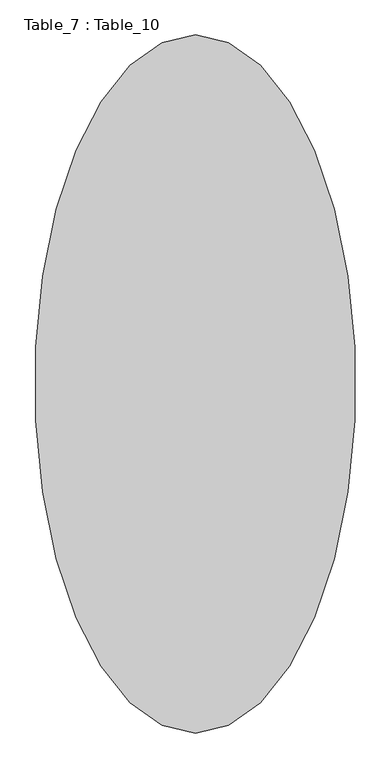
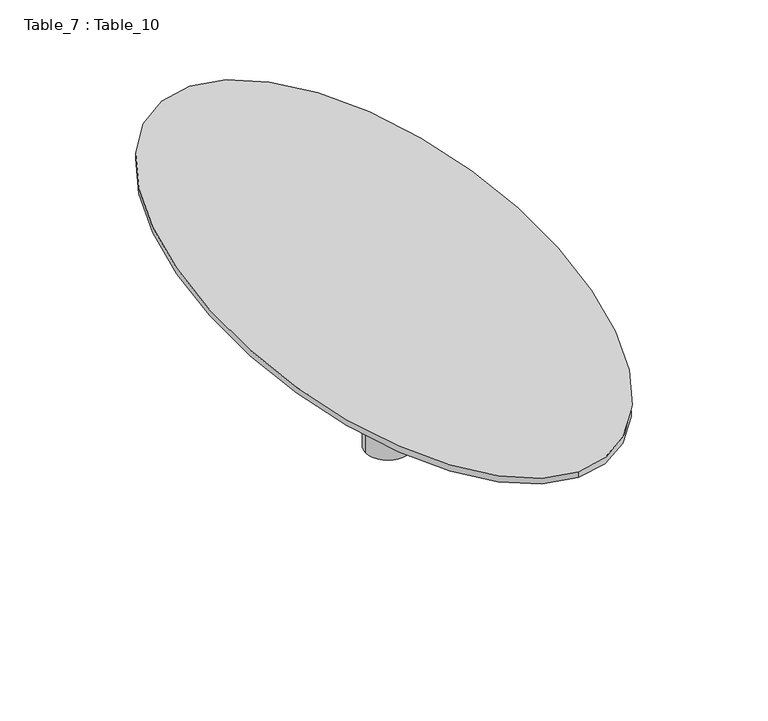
"""IFC4 building model written with IfcOpenShell, lengths in millimetres: furniture geometry, Table_7 : Table_10."""

import ifcopenshell
import ifcopenshell.guid

model = None  # the IFC model being written
_history = None  # IfcOwnerHistory: only IFC2X3 demands one
_inside = {}  # id of a spatial element -> (the spatial element, [elements in it])
_under = {}  # id of a project, library or spatial element -> (it, [spatial elements below it])
_declared = {}  # id of a project -> (the project, [libraries it declares])
_typed = {}  # id of a type object -> (the type object, [elements of that type])
_made_of = {}  # id of a material, layer set ... -> (it, [elements and type objects made of it])


def new_model(schema):
    """Start an empty IFC model of exactly this schema.

    Asked for "IFC4X3", IfcOpenShell would pick the latest addendum, in which some entities
    have other attributes; the version numbers below select the first issue.
    IFC2X3 requires an IfcOwnerHistory on every rooted entity: one is made here for all.
    """
    global model, _history
    if schema == "IFC4X3":
        model = ifcopenshell.file(schema_version=(4, 3, 0, 0))
    else:
        model = ifcopenshell.file(schema=schema)
    _inside.clear()
    _under.clear()
    _declared.clear()
    _typed.clear()
    _made_of.clear()
    _history = None
    if model.schema == "IFC2X3":
        org = make("IfcOrganization", Name="unknown")
        user = make(
            "IfcPersonAndOrganization",
            ThePerson=make("IfcPerson", FamilyName="unknown"),
            TheOrganization=org,
        )
        app = make(
            "IfcApplication",
            ApplicationDeveloper=org,
            Version="unknown",
            ApplicationFullName="unknown",
            ApplicationIdentifier="unknown",
        )
        _history = make(
            "IfcOwnerHistory",
            OwningUser=user,
            OwningApplication=app,
            ChangeAction="ADDED",
            CreationDate=0,
        )
    return model


def make(cls, **values):
    """One entity of the class cls with the attributes given. An attribute that is None is left unset."""
    return model.create_entity(
        cls, **{name: value for name, value in values.items() if value is not None}
    )


def rooted(cls, **values):
    """An entity with a GlobalId (a new one), such as an element, a storey or a relation."""
    return make(cls, GlobalId=ifcopenshell.guid.new(), OwnerHistory=_history, **values)


def si_unit(unit_type, name, prefix=None):
    """IfcSIUnit, for example si_unit("LENGTHUNIT", "METRE", prefix="MILLI")."""
    return make("IfcSIUnit", UnitType=unit_type, Prefix=prefix, Name=name)


def assignment(units):
    """IfcUnitAssignment: the units of a project."""
    return None if units is None else make("IfcUnitAssignment", Units=units)


def point(xyz):
    """IfcCartesianPoint."""
    return None if xyz is None else make("IfcCartesianPoint", Coordinates=xyz)


def direction(xyz):
    """IfcDirection."""
    return None if xyz is None else make("IfcDirection", DirectionRatios=xyz)


def frame(location, z_axis=None, x_axis=None):
    """IfcAxis2Placement3D, a coordinate frame: its origin and axes. An axis left out is left unset."""
    return make(
        "IfcAxis2Placement3D",
        Location=point(location),
        Axis=direction(z_axis),
        RefDirection=direction(x_axis),
    )


def frame_2d(location, x_axis=None):
    """IfcAxis2Placement2D, a coordinate frame in the plane: its origin and x axis."""
    return make(
        "IfcAxis2Placement2D", Location=point(location), RefDirection=direction(x_axis)
    )


def origin():
    """The frame at (0, 0, 0) with its axes left unset."""
    return frame((0.0, 0.0, 0.0))


def place(relative_to, where):
    """IfcLocalPlacement: puts the frame where relative to a parent placement (None: the world)."""
    return make(
        "IfcLocalPlacement", PlacementRelTo=relative_to, RelativePlacement=where
    )


def context(
    kind, dimensions, precision=None, world=None, true_north=None, identifier=None
):
    """IfcGeometricRepresentationContext, for example the 3D "Model" context."""
    return make(
        "IfcGeometricRepresentationContext",
        ContextIdentifier=identifier,
        ContextType=kind,
        CoordinateSpaceDimension=dimensions,
        Precision=precision,
        WorldCoordinateSystem=world,
        TrueNorth=true_north,
    )


def project(units=None, contexts=None):
    """IfcProject with its units and contexts."""
    return rooted(
        "IfcProject",
        Name="project",
        RepresentationContexts=contexts,
        UnitsInContext=assignment(units),
    )


def spatial(cls, under=None, at=None, **own):
    """A site, building, storey or space (cls), placed at a placement, below another one or the project."""
    s = rooted(cls, ObjectPlacement=at, **own)
    if under is not None:
        _under.setdefault(under.id(), (under, []))[1].append(s)
    return s


def circle_curve(where, radius):
    """IfcCircle in the frame where."""
    return make("IfcCircle", Position=where, Radius=radius)


def ellipse_curve(where, semi_axis1, semi_axis2):
    """IfcEllipse in the frame where."""
    return make(
        "IfcEllipse", Position=where, SemiAxis1=semi_axis1, SemiAxis2=semi_axis2
    )


def trimmed(basis, trim1, trim2, sense, master):
    """IfcTrimmedCurve: the piece of a basis curve between two trims."""
    return make(
        "IfcTrimmedCurve",
        BasisCurve=basis,
        Trim1=trim1,
        Trim2=trim2,
        SenseAgreement=sense,
        MasterRepresentation=master,
    )


def segment(curve, same_sense, transition):
    """IfcCompositeCurveSegment."""
    return make(
        "IfcCompositeCurveSegment",
        Transition=transition,
        SameSense=same_sense,
        ParentCurve=curve,
    )


def composite_curve(segments, self_intersect=None):
    """IfcCompositeCurve: segments joined end to end."""
    return make("IfcCompositeCurve", Segments=segments, SelfIntersect=self_intersect)


def outline(outer, holes=None, kind="AREA"):
    """IfcArbitraryClosedProfileDef: a profile drawn as a closed curve; with holes, ...WithVoids."""
    if holes is None:
        return make("IfcArbitraryClosedProfileDef", ProfileType=kind, OuterCurve=outer)
    return make(
        "IfcArbitraryProfileDefWithVoids",
        ProfileType=kind,
        OuterCurve=outer,
        InnerCurves=holes,
    )


def extrude(swept, where, along, depth):
    """IfcExtrudedAreaSolid: the profile swept, set in the frame where, extruded along a direction by depth."""
    return make(
        "IfcExtrudedAreaSolid",
        SweptArea=swept,
        Position=where,
        ExtrudedDirection=direction(along),
        Depth=depth,
    )


def shape(context_of_items, identifier, shape_type, items):
    """IfcShapeRepresentation: the items that make up one representation, for example the "Body"."""
    return make(
        "IfcShapeRepresentation",
        ContextOfItems=context_of_items,
        RepresentationIdentifier=identifier,
        RepresentationType=shape_type,
        Items=items,
    )


def source(mapping_origin, context_of_items, identifier, shape_type, items):
    """IfcRepresentationMap: a shape defined once, which mapped items show again and again."""
    return make(
        "IfcRepresentationMap",
        MappingOrigin=mapping_origin,
        MappedRepresentation=shape(context_of_items, identifier, shape_type, items),
    )


def transform(
    local_origin,
    x_axis=None,
    y_axis=None,
    z_axis=None,
    scale=None,
    scale2=None,
    scale3=None,
    uniform=True,
):
    """IfcCartesianTransformationOperator3D, or its non-uniform kind. x_axis, y_axis, z_axis: its Axis1, 2, 3."""
    if uniform:
        return make(
            "IfcCartesianTransformationOperator3D",
            Axis1=direction(x_axis),
            Axis2=direction(y_axis),
            LocalOrigin=point(local_origin),
            Scale=scale,
            Axis3=direction(z_axis),
        )
    return make(
        "IfcCartesianTransformationOperator3DnonUniform",
        Axis1=direction(x_axis),
        Axis2=direction(y_axis),
        LocalOrigin=point(local_origin),
        Scale=scale,
        Axis3=direction(z_axis),
        Scale2=scale2,
        Scale3=scale3,
    )


def mapped(mapping_source, mapping_target):
    """IfcMappedItem: shows the shape of a source again, moved by a transform."""
    return make(
        "IfcMappedItem", MappingSource=mapping_source, MappingTarget=mapping_target
    )


def made_of(thing, what):
    """Note that an element or type object is made of a material, layer set ...; save() writes the relation."""
    if what is not None:
        _made_of.setdefault(what.id(), (what, []))[1].append(thing)
    return thing


def element(
    cls,
    number,
    at=None,
    inside=None,
    cuts=None,
    type_object=None,
    material=None,
    context=None,
    identifier="Body",
    shape_type=None,
    held_by="IfcProductDefinitionShape",
    body=None,
    shapes=None,
    **own,
):
    """One element of the class cls, such as IfcWall. Its Tag is "e" and its number.

    at: its placement. inside: the storey or other place that contains it. cuts: it is an
    opening in that element (IfcRelVoidsElement). A single representation is given by context,
    identifier, shape_type and body (its items); several are given by shapes. held_by: the class
    of the entity that holds the representations. save() writes the other relations.
    """
    e = rooted(cls, Tag="e%d" % number, ObjectPlacement=at, **own)
    if body is not None:
        shapes = [shape(context, identifier, shape_type, body)]
    if shapes is not None:
        e.Representation = make(held_by, Representations=shapes)
    if inside is not None:
        _inside.setdefault(inside.id(), (inside, []))[1].append(e)
    if cuts is not None:
        rooted(
            "IfcRelVoidsElement", RelatingBuildingElement=cuts, RelatedOpeningElement=e
        )
    if type_object is not None:
        _typed.setdefault(type_object.id(), (type_object, []))[1].append(e)
    return made_of(e, material)


def aggregate(whole, parts):
    """IfcRelAggregates: a whole, such as a stair, and the parts it consists of."""
    return rooted("IfcRelAggregates", RelatingObject=whole, RelatedObjects=parts)


def save(model, path):
    """Write the relations noted so far, then the file.

    IfcRelAggregates (storeys below a building ...), IfcRelContainedInSpatialStructure (elements
    in a storey), IfcRelDefinesByType, IfcRelAssociatesMaterial and IfcRelDeclares: one each for
    every whole, place, type object, material and project.
    """
    for whole, parts in _under.values():
        aggregate(whole, parts)
    for where, things in _inside.values():
        rooted(
            "IfcRelContainedInSpatialStructure",
            RelatedElements=things,
            RelatingStructure=where,
        )
    for kind, things in _typed.values():
        rooted("IfcRelDefinesByType", RelatedObjects=things, RelatingType=kind)
    for what, things in _made_of.values():
        rooted("IfcRelAssociatesMaterial", RelatedObjects=things, RelatingMaterial=what)
    for by, libraries in _declared.values():
        rooted("IfcRelDeclares", RelatingContext=by, RelatedDefinitions=libraries)
    model.write(path)


def plane_surface(at):
    """IfcPlane: the flat surface through the origin of the frame at, square to its z axis."""
    return make("IfcPlane", Position=at)


def extruded_surface(curve, direction_of_extrusion, depth):
    """IfcSurfaceOfLinearExtrusion: the curve pushed along a direction by depth."""
    return make(
        "IfcSurfaceOfLinearExtrusion",
        SweptCurve=make("IfcArbitraryOpenProfileDef", ProfileType="CURVE", Curve=curve),
        ExtrudedDirection=direction(direction_of_extrusion),
        Depth=depth,
    )


def advanced_brep(points, edges, surfaces, faces):
    """IfcAdvancedBrep: a solid bounded by faces that lie on surfaces and meet in shared edges.

    An edge is (start, end): straight between two places in points (the first is 0);
    or (start, end, curve); or (start, end, curve, False) where it runs against its curve.
    A face is (place in surfaces, loops), or (place, loops, False) where it looks against
    its surface's normal. A loop lists edges by number (the first is 1), with a minus sign
    where the edge is run from its end to its start. The first loop is the outer one.
    """
    corners = [point(p) for p in points]
    vertices = [make("IfcVertexPoint", VertexGeometry=c) for c in corners]
    made = []
    for start, end, *more in edges:
        made.append(
            make(
                "IfcEdgeCurve",
                EdgeStart=vertices[start],
                EdgeEnd=vertices[end],
                EdgeGeometry=more[0] if more else make("IfcPolyline", Points=[corners[start], corners[end]]),
                SameSense=more[1] if len(more) > 1 else True,
            )
        )
    hull = []
    for where, loops, *sense in faces:
        bounds = []
        for j, loop in enumerate(loops):
            ring = [make("IfcOrientedEdge", EdgeElement=made[abs(k) - 1], Orientation=k > 0) for k in loop]
            bounds.append(
                make(
                    "IfcFaceOuterBound" if j == 0 else "IfcFaceBound",
                    Bound=make("IfcEdgeLoop", EdgeList=ring),
                    Orientation=True,
                )
            )
        hull.append(make("IfcAdvancedFace", Bounds=bounds, FaceSurface=surfaces[where], SameSense=sense[0] if sense else True))
    return make("IfcAdvancedBrep", Outer=make("IfcClosedShell", CfsFaces=hull))


def table_7_table_10_9ad1227e(model_context):
    return source(origin(), model_context, "Body", "SolidModel", [
        extrude(outline(composite_curve([segment(trimmed(circle_curve(frame_2d((2978.0652953, 8535.5249587)), 100.0), [point((2878.0652953, 8535.5249587))], [point((3078.0652953, 8535.5249587))], False, "CARTESIAN"), True, "CONTINUOUS"), segment(trimmed(circle_curve(frame_2d((2978.0652953, 8535.5249587)), 100.0), [point((3078.0652953, 8535.5249587))], [point((2878.0652953, 8535.5249587))], False, "CARTESIAN"), True, "CONTINUOUS")], self_intersect=False)), frame((0.0, 0.0, 3400.0), z_axis=(0.0, 0.0, 1.0), x_axis=(1.0, 0.0, 0.0)), (0.0, 0.0, 1.0), 751.4093352),
        advanced_brep(
        [(2977.6343316, 10085.8962564, 4178.8972759), (2977.6343316, 7045.8962564, 4178.8972759), (2977.6343316, 10085.8962564, 4151.4093352), (2977.6343316, 7045.8962564, 4151.4093352)],
        [
            (0, 1, ellipse_curve(frame((2977.6343316, 8565.8962564, 4178.8972759), z_axis=(0.0, 0.0, 1.0), x_axis=(0.0, -1.0, 0.0)), 1520.0, 700.0)),
            (1, 0, ellipse_curve(frame((2977.6343316, 8565.8962564, 4178.8972759), z_axis=(0.0, 0.0, 1.0), x_axis=(0.0, -1.0, 0.0)), 1520.0, 700.0)),
            (2, 3, ellipse_curve(frame((2977.6343316, 8565.8962564, 4151.4093352), z_axis=(0.0, 0.0, -1.0), x_axis=(0.0, -1.0, 0.0)), 1520.0, 700.0)),
            (3, 2, ellipse_curve(frame((2977.6343316, 8565.8962564, 4151.4093352), z_axis=(0.0, 0.0, -1.0), x_axis=(0.0, -1.0, 0.0)), 1520.0, 700.0)),
            (0, 2),
            (3, 1),
        ],
        [
            plane_surface(frame((2977.6343316, 7045.8962564, 4178.8972759), z_axis=(0.0, 0.0, 1.0), x_axis=(1.0, 0.0, 0.0))),
            plane_surface(frame((2977.6343316, 7045.8962564, 4151.4093352), z_axis=(0.0, 0.0, -1.0), x_axis=(-1.0, 0.0, 0.0))),
            extruded_surface(trimmed(ellipse_curve(frame((2977.6343316, 8565.8962564, 4123.9213946), z_axis=(0.0, 0.0, 1.0), x_axis=(0.0, -1.0, 0.0)), 1520.0, 700.0), [point((2977.6343316, 10085.8962564, 4123.9213946))], [point((2977.6343316, 7045.8962564, 4123.9213946))], True, "CARTESIAN"), (0.0, 0.0, 27.4879406), 27.4879406),
            extruded_surface(trimmed(ellipse_curve(frame((2977.6343316, 8565.8962564, 4123.9213946), z_axis=(0.0, 0.0, 1.0), x_axis=(0.0, -1.0, 0.0)), 1520.0, 700.0), [point((2977.6343316, 7045.8962564, 4123.9213946))], [point((2977.6343316, 10085.8962564, 4123.9213946))], True, "CARTESIAN"), (0.0, 0.0, 27.4879406), 27.4879406),
        ],
        [
            (0, [[1, 2]]),
            (1, [[3, 4]]),
            (2, [[-1, 5, -4, 6]]),
            (3, [[-2, -6, -3, -5]]),
        ],
    ),
    ])


if __name__ == "__main__":
    model = new_model("IFC4")
    model_context = context("Model", 3, world=origin())
    ifc_project = project(units=[si_unit("LENGTHUNIT", "METRE", prefix="MILLI")], contexts=[model_context])
    site = spatial("IfcSite", under=ifc_project)
    building = spatial("IfcBuilding", under=site)
    placement = place(None, origin())
    table_7_table_10_shape = table_7_table_10_9ad1227e(model_context)
    element("IfcFurniture", 1, ObjectType="Table_7 : Table_10", at=placement, inside=building, context=model_context, shape_type="MappedRepresentation", body=[
        mapped(table_7_table_10_shape, transform((0.0, 0.0, 0.0), x_axis=(1.0, 0.0, 0.0), y_axis=(0.0, 1.0, 0.0), z_axis=(0.0, 0.0, 1.0))),
    ])
    save(model, "model.ifc")
